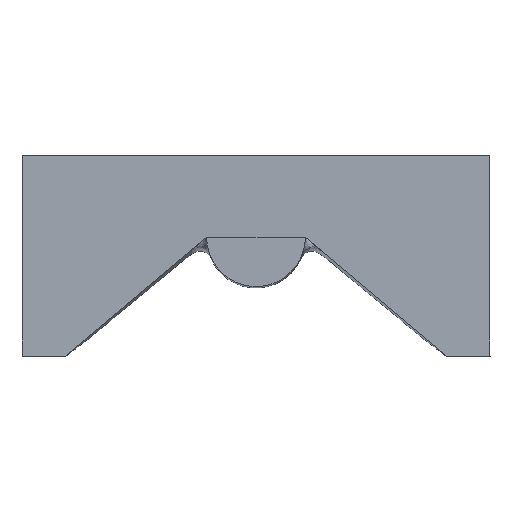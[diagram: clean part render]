
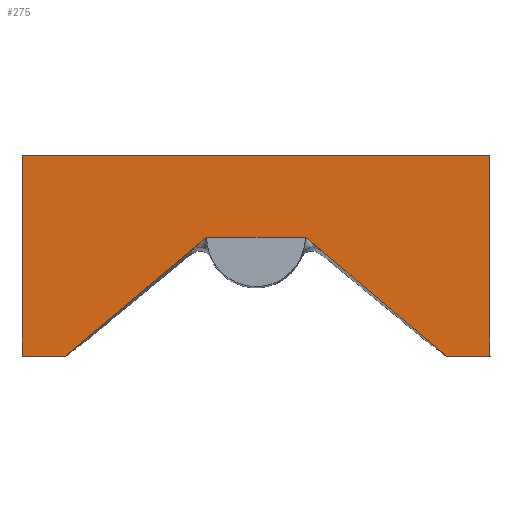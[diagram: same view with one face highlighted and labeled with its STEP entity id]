
A CAD part, top view. The second image highlights one B-rep face of the part: STEP entity #275.
In plain terms, the highlighted planar face has unit normal (0, 0, 1).
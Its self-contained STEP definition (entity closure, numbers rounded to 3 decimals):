
#275=ADVANCED_FACE('',(#685),#687,.T.);
#685=FACE_BOUND('',#686,.T.);
#686=EDGE_LOOP('',(#19436,#19437,#19438,#19439,#19440,#19441,#19442,#19443));
#687=PLANE('',#688);
#688=AXIS2_PLACEMENT_3D('',#689,#690,#691);
#689=CARTESIAN_POINT('',(0.,0.,1100.));
#690=DIRECTION('',(0.,0.,1.));
#691=DIRECTION('',(1.,0.,0.));
#19436=ORIENTED_EDGE('',*,*,#19601,.T.);
#19437=ORIENTED_EDGE('',*,*,#19595,.F.);
#19438=ORIENTED_EDGE('',*,*,#19602,.F.);
#19439=ORIENTED_EDGE('',*,*,#19597,.F.);
#19440=ORIENTED_EDGE('',*,*,#19603,.T.);
#19441=ORIENTED_EDGE('',*,*,#19604,.T.);
#19442=ORIENTED_EDGE('',*,*,#19605,.T.);
#19443=ORIENTED_EDGE('',*,*,#19589,.T.);
#19589=EDGE_CURVE('',#19684,#19682,#19685,.T.);
#19595=EDGE_CURVE('',#19693,#19687,#19695,.T.);
#19597=EDGE_CURVE('',#19696,#19698,#19699,.T.);
#19601=EDGE_CURVE('',#19682,#19687,#19705,.F.);
#19602=EDGE_CURVE('',#19698,#19693,#19706,.T.);
#19603=EDGE_CURVE('',#19696,#19707,#19708,.F.);
#19604=EDGE_CURVE('',#19707,#19709,#19710,.T.);
#19605=EDGE_CURVE('',#19709,#19684,#19711,.T.);
#19682=VERTEX_POINT('',#20090);
#19684=VERTEX_POINT('',#20094);
#19685=LINE('',#20095,#20096);
#19687=VERTEX_POINT('',#20101);
#19693=VERTEX_POINT('',#20113);
#19695=LINE('',#20117,#20118);
#19696=VERTEX_POINT('',#20120);
#19698=VERTEX_POINT('',#20124);
#19699=LINE('',#20125,#20126);
#19705=LINE('',#20139,#20140);
#19706=LINE('',#20142,#20143);
#19707=VERTEX_POINT('',#20145);
#19708=LINE('',#20146,#20147);
#19709=VERTEX_POINT('',#20149);
#19710=LINE('',#20150,#20151);
#19711=LINE('',#20153,#20154);
#20090=CARTESIAN_POINT('',(232.563,-144.797,1100.));
#20094=CARTESIAN_POINT('',(60.,0.,1100.));
#20095=CARTESIAN_POINT('',(60.,0.,1100.));
#20096=VECTOR('',#20097,1.);
#20097=DIRECTION('',(0.766,-0.643,0.));
#20101=CARTESIAN_POINT('',(285.,-144.797,1100.));
#20113=CARTESIAN_POINT('',(285.,100.,1100.));
#20117=CARTESIAN_POINT('',(285.,100.,1100.));
#20118=VECTOR('',#20119,1.);
#20119=DIRECTION('',(0.,-1.,0.));
#20120=CARTESIAN_POINT('',(-285.,-144.797,1100.));
#20124=CARTESIAN_POINT('',(-285.,100.,1100.));
#20125=CARTESIAN_POINT('',(-285.,-144.797,1100.));
#20126=VECTOR('',#20127,1.);
#20127=DIRECTION('',(0.,1.,0.));
#20139=CARTESIAN_POINT('',(285.,-144.797,1100.));
#20140=VECTOR('',#20141,1.);
#20141=DIRECTION('',(-1.,0.,0.));
#20142=CARTESIAN_POINT('',(-285.,100.,1100.));
#20143=VECTOR('',#20144,1.);
#20144=DIRECTION('',(1.,0.,0.));
#20145=CARTESIAN_POINT('',(-232.563,-144.797,1100.));
#20146=CARTESIAN_POINT('',(-232.563,-144.797,1100.));
#20147=VECTOR('',#20148,1.);
#20148=DIRECTION('',(-1.,0.,0.));
#20149=CARTESIAN_POINT('',(-60.,0.,1100.));
#20150=CARTESIAN_POINT('',(-232.563,-144.797,1100.));
#20151=VECTOR('',#20152,1.);
#20152=DIRECTION('',(0.766,0.643,0.));
#20153=CARTESIAN_POINT('',(-60.,0.,1100.));
#20154=VECTOR('',#20155,1.);
#20155=DIRECTION('',(1.,0.,0.));
